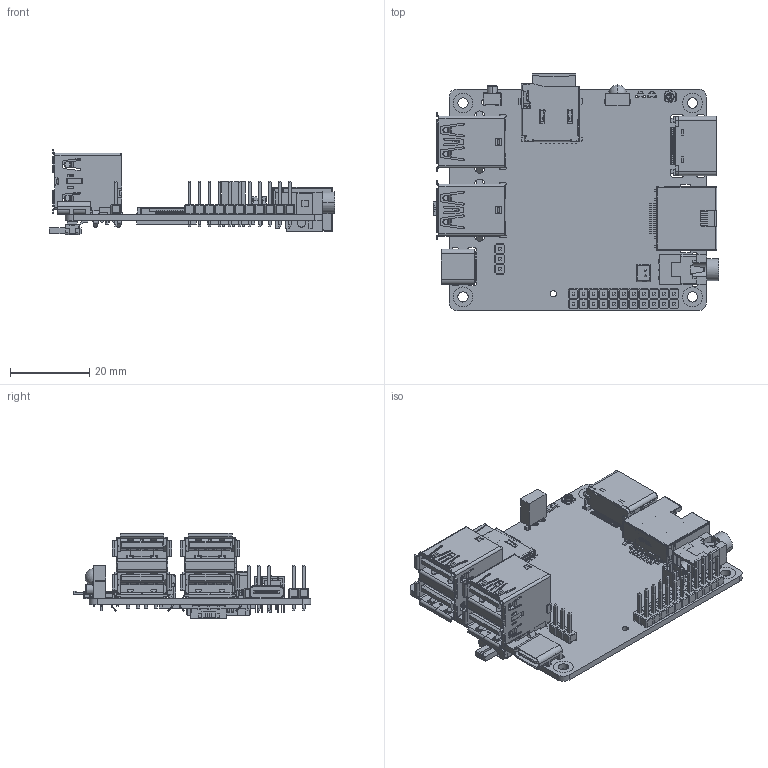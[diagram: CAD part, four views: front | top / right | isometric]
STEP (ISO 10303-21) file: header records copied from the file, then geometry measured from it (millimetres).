
FILE_DESCRIPTION (( 'STEP AP214' ), '1' );
FILE_NAME ('LubanCat A1-Q1.STEP', '2025-06-17T07:18:23', ( 'China' ), ( 'Microsoft' ), 'SwSTEP 2.0', 'SolidWorks 2021', '' );
FILE_SCHEMA (( 'AUTOMOTIVE_DESIGN' ));
Length unit declared in the file: millimetre
Products named in the file (19): PJ-3910-7A 3.5mm嫉儂釱赽; 賑雄羲壽9.1x3.5x3.0mm; LubanCat A1-Q1; H618-PCB-20230905; USB2.0邧脯橙晚 錨璃; User Library-Micro_SD_Socket_Push-push; 聆泂LED; DIP 齬渀2x13pin; HDMI 座子卧式 长度15 零件; ZH 2P 脣璃1.5MM; RJ45麥啣 湍腑 泂え_1; PRT0002_1; DIP 齬渀3pin; 眻脣宒綻俋-HS0038B4D; PRT0003_1; TYPE-C 譫釱酗8.35mm 16P 泂え 錨璃; SD縐; ufl毞盄釱赽; 边三脚侧插侧按按键254gf
Assembly tree (20 placements, depth 3):
  LubanCat A1-Q1
    H618-PCB-20230905
    HDMI 座子卧式 长度15 零件
    ufl毞盄釱赽
    USB2.0邧脯橙晚 錨璃  x2
    User Library-Micro_SD_Socket_Push-push
    眻脣宒綻俋-HS0038B4D
    ZH 2P 脣璃1.5MM
    DIP 齬渀2x13pin
    DIP 齬渀3pin
    SD縐
    PJ-3910-7A 3.5mm嫉儂釱赽
    RJ45麥啣 湍腑 泂え_1
      PRT0003_1
      PRT0002_1
    聆泂LED  x2
    边三脚侧插侧按按键254gf
    TYPE-C 譫釱酗8.35mm 16P 泂え 錨璃
    賑雄羲壽9.1x3.5x3.0mm
Bounding box: 72.02 x 60 x 21.59 mm (x, y, z)
Volume: 13943.6 mm3; surface area: 23661.6 mm2
Topology: 80 solids, 80 shells, 7684 faces, 20525 edges, 13142 vertices
Faces by surface type: plane 5810, cylinder 1467, bspline 329, cone 48, torus 20, sphere 10
Entity records: 263297 total; most frequent: CARTESIAN_POINT 50982, ORIENTED_EDGE 36180, DIRECTION 32049, EDGE_CURVE 18090, LINE 14793, VECTOR 14793, VERTEX_POINT 11591, AXIS2_PLACEMENT_3D 8628
